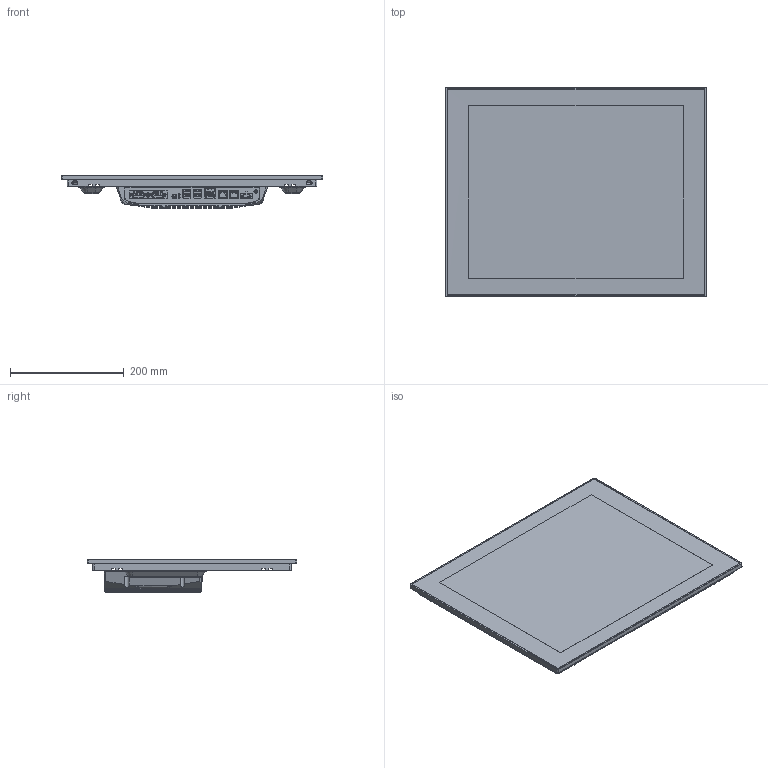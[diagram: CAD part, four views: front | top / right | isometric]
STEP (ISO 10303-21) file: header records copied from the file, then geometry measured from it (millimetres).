
FILE_DESCRIPTION (( 'STEP AP214' ), '1' );
FILE_NAME ('TPC-C190H-N S 3D蚾饜芞.STEP', '2024-08-21T06:44:32', ( 'demo' ), ( '' ), 'SwSTEP 2.0', 'SolidWorks 2016', '' );
FILE_SCHEMA (( 'AUTOMOTIVE_DESIGN' ));
Length unit declared in the file: millimetre
Products named in the file (1): TPC-C190H-N S 3D蚾饜芞
Bounding box: 460 x 369 x 58.5 mm (x, y, z)
Surface area: 679989.6 mm2 (no closed solid volume)
Topology: 0 solids, 101 shells, 1298 faces, 7662 edges, 6096 vertices
Faces by surface type: plane 818, cylinder 364, cone 76, bspline 26, torus 14
Entity records: 89863 total; most frequent: CARTESIAN_POINT 20313, DIRECTION 10658, ORIENTED_EDGE 10042, EDGE_CURVE 7636, VERTEX_POINT 6096, VECTOR 5550, LINE 5550, AXIS2_PLACEMENT_3D 2554
